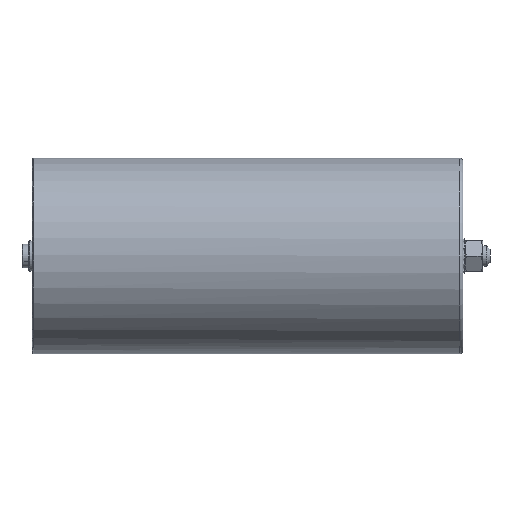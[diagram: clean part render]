
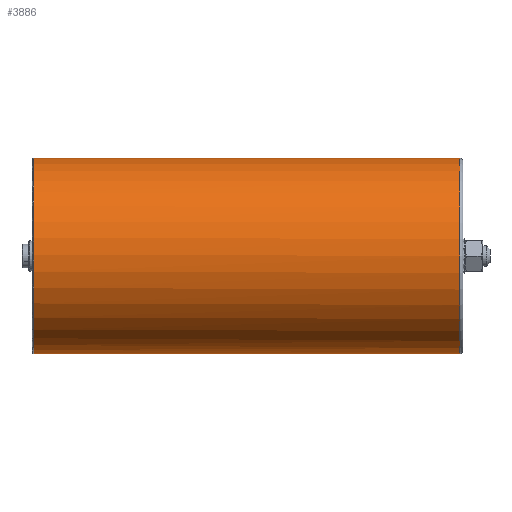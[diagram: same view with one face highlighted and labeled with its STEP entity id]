
A CAD part, left-side view. The second image highlights one B-rep face of the part: STEP entity #3886.
In plain terms, the highlighted cylindrical face has radius 58 mm (diameter 116 mm), a partial arc.
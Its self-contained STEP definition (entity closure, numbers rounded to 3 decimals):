
#308 = CARTESIAN_POINT ( 'NONE',  ( 0., 0., 0. ) ) ;
#329 = DIRECTION ( 'NONE',  ( 0., -1., 0. ) ) ;
#405 = DIRECTION ( 'NONE',  ( 0., -1., 0. ) ) ;
#469 = CARTESIAN_POINT ( 'NONE',  ( 0., 2., -58. ) ) ;
#623 = CIRCLE ( 'NONE', #4218, 58. ) ;
#811 = CARTESIAN_POINT ( 'NONE',  ( 0., 2., 58. ) ) ;
#870 = CARTESIAN_POINT ( 'NONE',  ( 0., 254., -58. ) ) ;
#1046 = DIRECTION ( 'NONE',  ( 0., -1., 0. ) ) ;
#1050 = AXIS2_PLACEMENT_3D ( 'NONE', #308, #329, #1921 ) ;
#1152 = ORIENTED_EDGE ( 'NONE', *, *, #1202, .T. ) ;
#1202 = EDGE_CURVE ( 'NONE', #2163, #3572, #2461, .T. ) ;
#1217 = AXIS2_PLACEMENT_3D ( 'NONE', #1668, #1046, #2589 ) ;
#1312 = CIRCLE ( 'NONE', #3863, 58. ) ;
#1346 = LINE ( 'NONE', #2667, #3846 ) ;
#1435 = ORIENTED_EDGE ( 'NONE', *, *, #3203, .T. ) ;
#1534 = VERTEX_POINT ( 'NONE', #811 ) ;
#1668 = CARTESIAN_POINT ( 'NONE',  ( 0., 254., 0. ) ) ;
#1687 = CARTESIAN_POINT ( 'NONE',  ( 0., 254., 58. ) ) ;
#1833 = EDGE_CURVE ( 'NONE', #2163, #1534, #1346, .T. ) ;
#1921 = DIRECTION ( 'NONE',  ( 0., 0., -1. ) ) ;
#1933 = ORIENTED_EDGE ( 'NONE', *, *, #3633, .T. ) ;
#2163 = VERTEX_POINT ( 'NONE', #1687 ) ;
#2213 = DIRECTION ( 'NONE',  ( 0., 0., -1. ) ) ;
#2348 = ORIENTED_EDGE ( 'NONE', *, *, #3057, .T. ) ;
#2411 = DIRECTION ( 'NONE',  ( 0., -1., 0. ) ) ;
#2461 = CIRCLE ( 'NONE', #1217, 58. ) ;
#2565 = EDGE_LOOP ( 'NONE', ( #3847, #1152, #1933, #1435, #2348 ) ) ;
#2589 = DIRECTION ( 'NONE',  ( 0.659, 0., 0.753 ) ) ;
#2667 = CARTESIAN_POINT ( 'NONE',  ( 0., 0., 58. ) ) ;
#3027 = LINE ( 'NONE', #4008, #3669 ) ;
#3029 = VERTEX_POINT ( 'NONE', #870 ) ;
#3057 = EDGE_CURVE ( 'NONE', #3658, #1534, #1312, .T. ) ;
#3063 = CARTESIAN_POINT ( 'NONE',  ( 0., 254., 0. ) ) ;
#3087 = DIRECTION ( 'NONE',  ( 0.659, 0., 0.753 ) ) ;
#3157 = CARTESIAN_POINT ( 'NONE',  ( 0., 2., 0. ) ) ;
#3203 = EDGE_CURVE ( 'NONE', #3029, #3658, #3027, .T. ) ;
#3269 = DIRECTION ( 'NONE',  ( 0., -1., 0. ) ) ;
#3521 = FACE_OUTER_BOUND ( 'NONE', #2565, .T. ) ;
#3572 = VERTEX_POINT ( 'NONE', #3682 ) ;
#3633 = EDGE_CURVE ( 'NONE', #3572, #3029, #623, .T. ) ;
#3658 = VERTEX_POINT ( 'NONE', #469 ) ;
#3669 = VECTOR ( 'NONE', #3269, 1000. ) ;
#3682 = CARTESIAN_POINT ( 'NONE',  ( -38.196, 254., -43.647 ) ) ;
#3846 = VECTOR ( 'NONE', #2411, 1000. ) ;
#3847 = ORIENTED_EDGE ( 'NONE', *, *, #1833, .F. ) ;
#3863 = AXIS2_PLACEMENT_3D ( 'NONE', #3157, #4203, #2213 ) ;
#3886 = ADVANCED_FACE ( 'NONE', ( #3521 ), #3955, .T. ) ;
#3955 = CYLINDRICAL_SURFACE ( 'NONE', #1050, 58. ) ;
#4008 = CARTESIAN_POINT ( 'NONE',  ( 0., 0., -58. ) ) ;
#4203 = DIRECTION ( 'NONE',  ( 0., 1., 0. ) ) ;
#4218 = AXIS2_PLACEMENT_3D ( 'NONE', #3063, #405, #3087 ) ;
